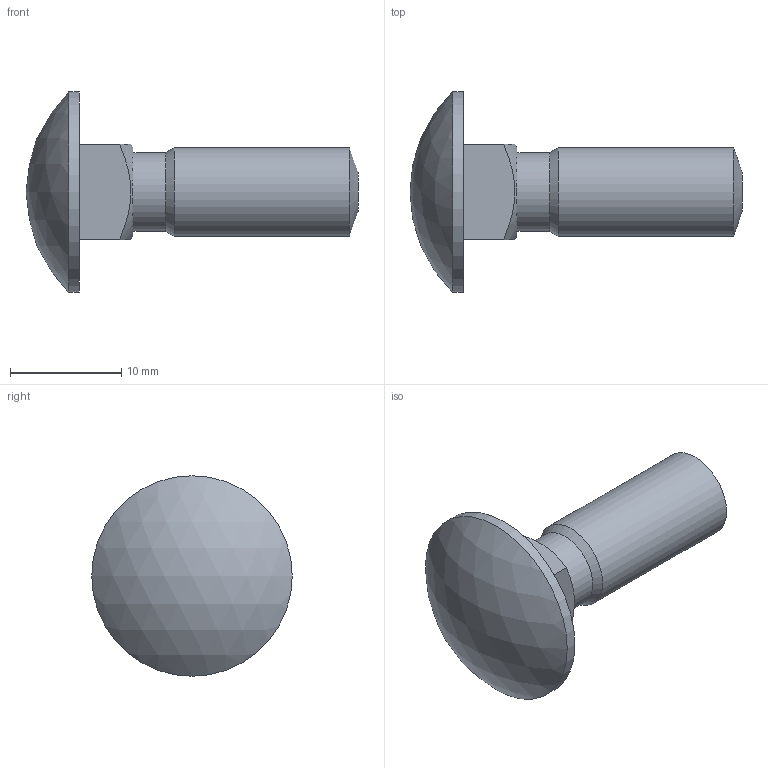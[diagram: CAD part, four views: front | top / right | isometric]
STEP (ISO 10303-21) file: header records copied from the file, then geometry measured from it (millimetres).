
FILE_DESCRIPTION(/* description */ ('Boulon à collet carré, à tête ronde'),/* implementation_level */ '2;1');
FILE_NAME(/* name */ 'H:\5-Olympiades\47e\Sujet Régional\Etau\A donner aux candidats\2-Après-Midi\14-ANSI B18.5.2.1M - M8x1,25 x 25.stp',/* time_stamp */ '2022-03-30T08:46:21+02:00',/* author */ ('Philippe'),/* organization */ (''),/* preprocessor_version */ 'ST-DEVELOPER v18',/* originating_system */ 'Autodesk Inventor 2020',/* authorisation */ '');
FILE_SCHEMA (('AUTOMOTIVE_DESIGN { 1 0 10303 214 3 1 1 }'));
Length unit declared in the file: millimetre
Products named in the file (1): ANSI B18.5.2.1M - M8x1,25 x 25, RHSNBM
Bounding box: 29.8 x 18 x 18 mm (x, y, z)
Volume: 2069.3 mm3; surface area: 1255.4 mm2
Topology: 1 solids, 1 shells, 14 faces, 33 edges, 23 vertices
Faces by surface type: plane 7, cone 3, cylinder 3, sphere 1
Full cylindrical faces by diameter (mm): 7.04 x1, 8 x1, 18 x1
Entity records: 453 total; most frequent: CARTESIAN_POINT 79, DIRECTION 74, ORIENTED_EDGE 66, EDGE_CURVE 33, AXIS2_PLACEMENT_3D 30, VERTEX_POINT 23, EDGE_LOOP 16, CIRCLE 15
